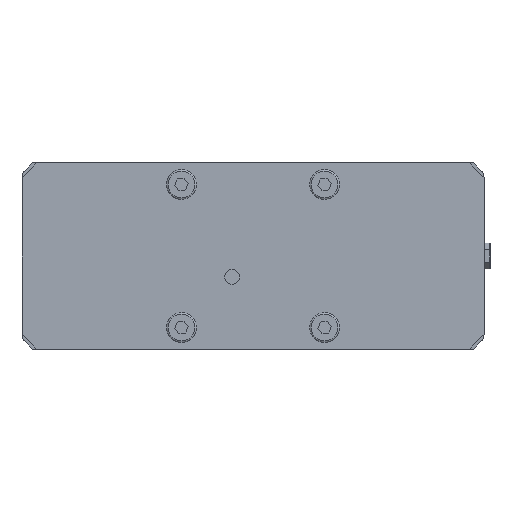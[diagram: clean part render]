
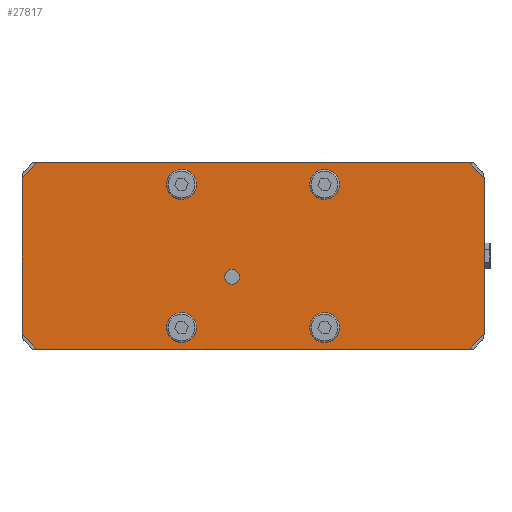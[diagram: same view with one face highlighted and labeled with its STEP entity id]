
A CAD part, front view. The second image highlights one B-rep face of the part: STEP entity #27817.
In plain terms, the highlighted planar face has unit normal (0, -1, 0).
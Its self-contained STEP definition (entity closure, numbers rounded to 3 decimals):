
#130 = DIRECTION ( 'NONE',  ( 0., 0., -1. ) ) ;
#225 = VERTEX_POINT ( 'NONE', #8783 ) ;
#273 = VERTEX_POINT ( 'NONE', #37689 ) ;
#785 = VERTEX_POINT ( 'NONE', #14199 ) ;
#1184 = ORIENTED_EDGE ( 'NONE', *, *, #5607, .F. ) ;
#1643 = FACE_BOUND ( 'NONE', #10913, .T. ) ;
#2038 = ORIENTED_EDGE ( 'NONE', *, *, #5474, .F. ) ;
#2106 = FACE_OUTER_BOUND ( 'NONE', #2278, .T. ) ;
#2278 = EDGE_LOOP ( 'NONE', ( #26149, #4472, #4655, #9487, #2038, #3900, #1184, #45638 ) ) ;
#3076 = AXIS2_PLACEMENT_3D ( 'NONE', #42483, #42914, #23903 ) ;
#3130 = LINE ( 'NONE', #13870, #8100 ) ;
#3235 = VERTEX_POINT ( 'NONE', #31807 ) ;
#3255 = CARTESIAN_POINT ( 'NONE',  ( -48., 0., 56. ) ) ;
#3313 = EDGE_LOOP ( 'NONE', ( #7070 ) ) ;
#3667 = LINE ( 'NONE', #31950, #21378 ) ;
#3900 = ORIENTED_EDGE ( 'NONE', *, *, #4910, .T. ) ;
#4040 = VERTEX_POINT ( 'NONE', #22297 ) ;
#4472 = ORIENTED_EDGE ( 'NONE', *, *, #29109, .T. ) ;
#4655 = ORIENTED_EDGE ( 'NONE', *, *, #39974, .T. ) ;
#4691 = CARTESIAN_POINT ( 'NONE',  ( 155., 0., 62.5 ) ) ;
#4910 = EDGE_CURVE ( 'NONE', #3235, #273, #39533, .T. ) ;
#5159 = CARTESIAN_POINT ( 'NONE',  ( 155., 0., -62.5 ) ) ;
#5474 = EDGE_CURVE ( 'NONE', #3235, #4040, #35146, .T. ) ;
#5601 = DIRECTION ( 'NONE',  ( 0., 0., 1. ) ) ;
#5607 = EDGE_CURVE ( 'NONE', #11866, #273, #7829, .T. ) ;
#6045 = CIRCLE ( 'NONE', #3076, 8. ) ;
#6296 = VERTEX_POINT ( 'NONE', #3255 ) ;
#6761 = CARTESIAN_POINT ( 'NONE',  ( 56., 0., 48. ) ) ;
#7070 = ORIENTED_EDGE ( 'NONE', *, *, #10648, .T. ) ;
#7079 = VECTOR ( 'NONE', #130, 1000. ) ;
#7553 = CARTESIAN_POINT ( 'NONE',  ( 48., 0., -48. ) ) ;
#7808 = AXIS2_PLACEMENT_3D ( 'NONE', #15764, #26478, #19761 ) ;
#7829 = LINE ( 'NONE', #14607, #7079 ) ;
#7963 = DIRECTION ( 'NONE',  ( 1., 0., 0. ) ) ;
#8100 = VECTOR ( 'NONE', #30711, 1000. ) ;
#8515 = EDGE_CURVE ( 'NONE', #17918, #4040, #3130, .T. ) ;
#8632 = CARTESIAN_POINT ( 'NONE',  ( -155., 0., -62.5 ) ) ;
#8655 = EDGE_CURVE ( 'NONE', #34113, #34113, #40992, .T. ) ;
#8783 = CARTESIAN_POINT ( 'NONE',  ( -14., 0., -19. ) ) ;
#9368 = CARTESIAN_POINT ( 'NONE',  ( 48., 0., -56. ) ) ;
#9484 = EDGE_LOOP ( 'NONE', ( #38075 ) ) ;
#9487 = ORIENTED_EDGE ( 'NONE', *, *, #8515, .T. ) ;
#9719 = CARTESIAN_POINT ( 'NONE',  ( 155., 0., -62.5 ) ) ;
#9940 = DIRECTION ( 'NONE',  ( 0., 1., 0. ) ) ;
#10311 = AXIS2_PLACEMENT_3D ( 'NONE', #42782, #25285, #7963 ) ;
#10648 = EDGE_CURVE ( 'NONE', #15925, #15925, #15876, .T. ) ;
#10913 = EDGE_LOOP ( 'NONE', ( #29995 ) ) ;
#11866 = VERTEX_POINT ( 'NONE', #21418 ) ;
#11907 = DIRECTION ( 'NONE',  ( -1., 0., 0. ) ) ;
#11908 = CARTESIAN_POINT ( 'NONE',  ( 155., 0., -52.5 ) ) ;
#12751 = VECTOR ( 'NONE', #26521, 1000. ) ;
#13234 = DIRECTION ( 'NONE',  ( -1., 0., 0. ) ) ;
#13535 = VECTOR ( 'NONE', #11907, 1000. ) ;
#13870 = CARTESIAN_POINT ( 'NONE',  ( -145., 0., -62.5 ) ) ;
#14199 = CARTESIAN_POINT ( 'NONE',  ( -155., 0., 52.5 ) ) ;
#14311 = CARTESIAN_POINT ( 'NONE',  ( 145., 0., 62.5 ) ) ;
#14326 = EDGE_LOOP ( 'NONE', ( #45707 ) ) ;
#14607 = CARTESIAN_POINT ( 'NONE',  ( 155., 0., -62.5 ) ) ;
#15764 = CARTESIAN_POINT ( 'NONE',  ( -14., 0., -14. ) ) ;
#15876 = CIRCLE ( 'NONE', #27695, 8. ) ;
#15925 = VERTEX_POINT ( 'NONE', #30154 ) ;
#16608 = CARTESIAN_POINT ( 'NONE',  ( -155., 0., -52.5 ) ) ;
#17212 = EDGE_LOOP ( 'NONE', ( #27973 ) ) ;
#17918 = VERTEX_POINT ( 'NONE', #16608 ) ;
#18562 = DIRECTION ( 'NONE',  ( 0., 0., -1. ) ) ;
#19347 = LINE ( 'NONE', #33513, #12751 ) ;
#19761 = DIRECTION ( 'NONE',  ( 0., 0., -1. ) ) ;
#20782 = DIRECTION ( 'NONE',  ( -0.707, 0., 0.707 ) ) ;
#21378 = VECTOR ( 'NONE', #20782, 1000. ) ;
#21418 = CARTESIAN_POINT ( 'NONE',  ( 155., 0., 52.5 ) ) ;
#22297 = CARTESIAN_POINT ( 'NONE',  ( -145., 0., -62.5 ) ) ;
#23401 = FACE_BOUND ( 'NONE', #9484, .T. ) ;
#23566 = CARTESIAN_POINT ( 'NONE',  ( -48., 0., -48. ) ) ;
#23903 = DIRECTION ( 'NONE',  ( 0., 0., 1. ) ) ;
#24562 = AXIS2_PLACEMENT_3D ( 'NONE', #5159, #40658, #5601 ) ;
#25285 = DIRECTION ( 'NONE',  ( 0., 1., 0. ) ) ;
#25374 = EDGE_CURVE ( 'NONE', #33627, #32898, #29234, .T. ) ;
#25951 = DIRECTION ( 'NONE',  ( 0., 0., -1. ) ) ;
#26149 = ORIENTED_EDGE ( 'NONE', *, *, #25374, .T. ) ;
#26478 = DIRECTION ( 'NONE',  ( 0., -1., 0. ) ) ;
#26521 = DIRECTION ( 'NONE',  ( -0.707, 0., -0.707 ) ) ;
#27695 = AXIS2_PLACEMENT_3D ( 'NONE', #23566, #9940, #13234 ) ;
#27735 = EDGE_CURVE ( 'NONE', #46027, #46027, #30472, .T. ) ;
#27817 = ADVANCED_FACE ( 'NONE', ( #1643, #30134, #41135, #44624, #23401, #2106 ), #40900, .F. ) ;
#27850 = CARTESIAN_POINT ( 'NONE',  ( -145., 0., 62.5 ) ) ;
#27947 = CIRCLE ( 'NONE', #7808, 5. ) ;
#27973 = ORIENTED_EDGE ( 'NONE', *, *, #29951, .T. ) ;
#29109 = EDGE_CURVE ( 'NONE', #32898, #785, #19347, .T. ) ;
#29234 = LINE ( 'NONE', #4691, #13535 ) ;
#29951 = EDGE_CURVE ( 'NONE', #6296, #6296, #6045, .T. ) ;
#29995 = ORIENTED_EDGE ( 'NONE', *, *, #27735, .T. ) ;
#30134 = FACE_BOUND ( 'NONE', #14326, .T. ) ;
#30154 = CARTESIAN_POINT ( 'NONE',  ( -56., 0., -48. ) ) ;
#30472 = CIRCLE ( 'NONE', #10311, 8. ) ;
#30711 = DIRECTION ( 'NONE',  ( 0.707, 0., -0.707 ) ) ;
#31275 = AXIS2_PLACEMENT_3D ( 'NONE', #7553, #42617, #18562 ) ;
#31807 = CARTESIAN_POINT ( 'NONE',  ( 145., 0., -62.5 ) ) ;
#31950 = CARTESIAN_POINT ( 'NONE',  ( 155., 0., 52.5 ) ) ;
#32483 = DIRECTION ( 'NONE',  ( 0.707, 0., 0.707 ) ) ;
#32898 = VERTEX_POINT ( 'NONE', #27850 ) ;
#33513 = CARTESIAN_POINT ( 'NONE',  ( -145., 0., 62.5 ) ) ;
#33627 = VERTEX_POINT ( 'NONE', #14311 ) ;
#34113 = VERTEX_POINT ( 'NONE', #9368 ) ;
#34212 = VECTOR ( 'NONE', #25951, 1000. ) ;
#35146 = LINE ( 'NONE', #9719, #36139 ) ;
#35359 = DIRECTION ( 'NONE',  ( -1., 0., 0. ) ) ;
#35833 = EDGE_CURVE ( 'NONE', #225, #225, #27947, .T. ) ;
#36139 = VECTOR ( 'NONE', #35359, 1000. ) ;
#36210 = VECTOR ( 'NONE', #32483, 1000. ) ;
#37689 = CARTESIAN_POINT ( 'NONE',  ( 155., 0., -52.5 ) ) ;
#38075 = ORIENTED_EDGE ( 'NONE', *, *, #35833, .F. ) ;
#39533 = LINE ( 'NONE', #11908, #36210 ) ;
#39974 = EDGE_CURVE ( 'NONE', #785, #17918, #44148, .T. ) ;
#40658 = DIRECTION ( 'NONE',  ( 0., 1., 0. ) ) ;
#40900 = PLANE ( 'NONE',  #24562 ) ;
#40992 = CIRCLE ( 'NONE', #31275, 8. ) ;
#41135 = FACE_BOUND ( 'NONE', #3313, .T. ) ;
#42483 = CARTESIAN_POINT ( 'NONE',  ( -48., 0., 48. ) ) ;
#42617 = DIRECTION ( 'NONE',  ( 0., 1., 0. ) ) ;
#42782 = CARTESIAN_POINT ( 'NONE',  ( 48., 0., 48. ) ) ;
#42914 = DIRECTION ( 'NONE',  ( 0., 1., 0. ) ) ;
#43934 = EDGE_CURVE ( 'NONE', #11866, #33627, #3667, .T. ) ;
#44148 = LINE ( 'NONE', #8632, #34212 ) ;
#44624 = FACE_BOUND ( 'NONE', #17212, .T. ) ;
#45638 = ORIENTED_EDGE ( 'NONE', *, *, #43934, .T. ) ;
#45707 = ORIENTED_EDGE ( 'NONE', *, *, #8655, .T. ) ;
#46027 = VERTEX_POINT ( 'NONE', #6761 ) ;
